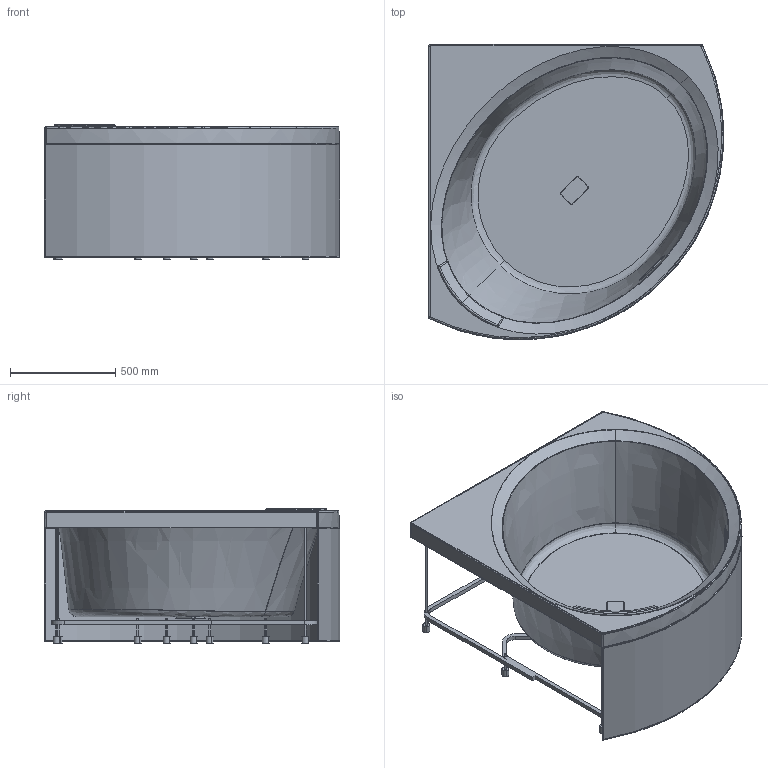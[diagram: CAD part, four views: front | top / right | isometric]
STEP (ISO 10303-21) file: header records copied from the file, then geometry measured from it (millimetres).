
FILE_DESCRIPTION(('STEP AP203'),'2;1');
FILE_NAME('DIV2140140-A1.stp','2016-02-24T17:36:31',(''),(''),'2014.1.117','THINKDESIGN','');
FILE_SCHEMA(('CONFIG_CONTROL_DESIGN'));
Length unit declared in the file: millimetre
Bounding box: 1401.76 x 1401.98 x 640.8 mm (x, y, z)
Volume: 19030496.3 mm3; surface area: 10649425.6 mm2
Topology: 6 solids, 6 shells, 280 faces, 650 edges, 406 vertices
Faces by surface type: cylinder 114, plane 95, bspline 71
Entity records: 16490 total; most frequent: CARTESIAN_POINT 10266, ORIENTED_EDGE 1284, DIRECTION 1212, EDGE_CURVE 642, AXIS2_PLACEMENT_3D 465, VERTEX_POINT 406, EDGE_LOOP 316, VECTOR 282
